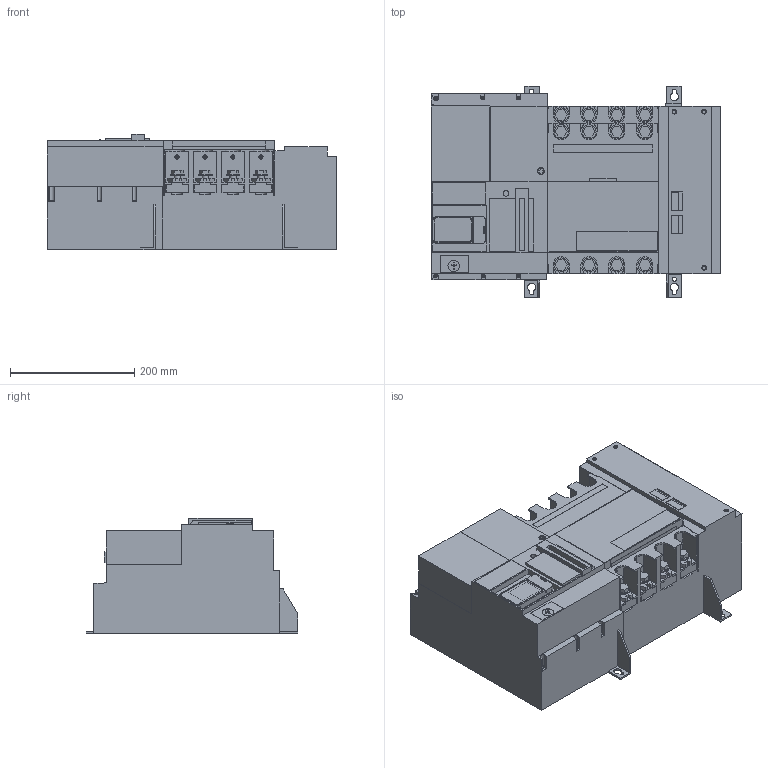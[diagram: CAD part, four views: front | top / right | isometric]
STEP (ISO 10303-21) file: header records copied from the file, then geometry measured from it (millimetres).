
FILE_DESCRIPTION((''),'2;1');
FILE_NAME('1669265189871_ASM','2022-11-24T10:16:54',('SESA654545'),('Schneider-Electric'),'CREO PARAMETRIC BY PTC INC, 2021284','CREO PARAMETRIC BY PTC INC, 2021284','');
FILE_SCHEMA(('AP242_MANAGED_MODEL_BASED_3D_ENGINEERING_MIM_LF { 1 0 10303 442 1 1 4 }'));
Products named in the file (4): EMPTYNODE_1669265190487_ASM; R4-4P-LCD-V03; R4-4P-LCD-V03-3D_ASM; 1669265189871_ASM
Assembly tree (3 placements, depth 3):
  1669265189871_ASM
    EMPTYNODE_1669265190487_ASM
    R4-4P-LCD-V03-3D_ASM
      R4-4P-LCD-V03
Bounding box: 467.1 x 341.01 x 185.8 mm (x, y, z)
Volume: 19698259.5 mm3; surface area: 852504.8 mm2
Topology: 2 solids, 3 shells, 1798 faces, 4853 edges, 3206 vertices
Faces by surface type: plane 1411, cylinder 331, extrusion 56
Entity records: 80515 total; most frequent: CARTESIAN_POINT 11562, ORIENTED_EDGE 9706, DIRECTION 8954, PRESENTATION_STYLE_ASSIGNMENT 5613, STYLED_ITEM 4905, CURVE_STYLE 4903, EDGE_CURVE 4853, VECTOR 4050
